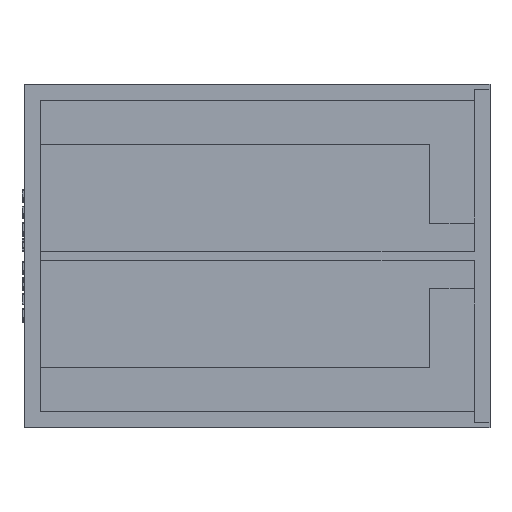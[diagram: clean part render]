
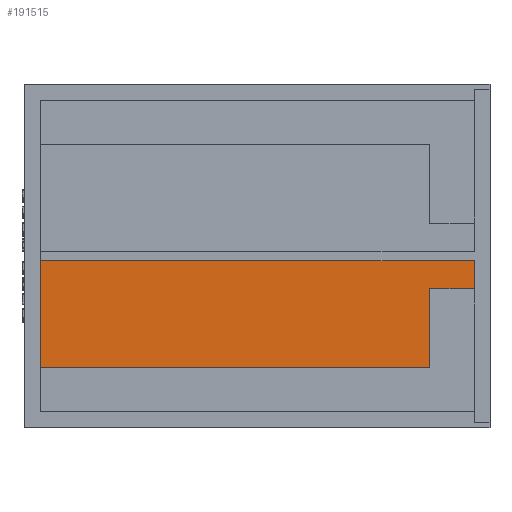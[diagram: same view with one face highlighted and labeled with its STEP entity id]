
A CAD part, top view. The second image highlights one B-rep face of the part: STEP entity #191515.
In plain terms, the highlighted planar face has unit normal (0, 0, 1).
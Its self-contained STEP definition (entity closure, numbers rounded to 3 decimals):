
#42118 = PLANE('',#42119);
#42119 = AXIS2_PLACEMENT_3D('',#42120,#42121,#42122);
#42120 = CARTESIAN_POINT('',(5.,5.,3.));
#42121 = DIRECTION('',(1.,0.,-0.));
#42122 = DIRECTION('',(0.,0.,1.));
#140355 = VERTEX_POINT('',#140356);
#140356 = CARTESIAN_POINT('',(5.,18.85,3.5));
#140370 = PLANE('',#140371);
#140371 = AXIS2_PLACEMENT_3D('',#140372,#140373,#140374);
#140372 = CARTESIAN_POINT('',(5.,18.85,3.));
#140373 = DIRECTION('',(-0.,1.,0.));
#140374 = DIRECTION('',(0.,0.,1.));
#140382 = EDGE_CURVE('',#140355,#140383,#140385,.T.);
#140383 = VERTEX_POINT('',#140384);
#140384 = CARTESIAN_POINT('',(5.,52.7,3.5));
#140385 = SURFACE_CURVE('',#140386,(#140390,#140397),.PCURVE_S1.);
#140386 = LINE('',#140387,#140388);
#140387 = CARTESIAN_POINT('',(5.,18.85,3.5));
#140388 = VECTOR('',#140389,1.);
#140389 = DIRECTION('',(-0.,1.,0.));
#140390 = PCURVE('',#42118,#140391);
#140391 = DEFINITIONAL_REPRESENTATION('',(#140392),#140396);
#140392 = LINE('',#140393,#140394);
#140393 = CARTESIAN_POINT('',(0.5,-13.85));
#140394 = VECTOR('',#140395,1.);
#140395 = DIRECTION('',(0.,-1.));
#140396 = ( GEOMETRIC_REPRESENTATION_CONTEXT(2) 
PARAMETRIC_REPRESENTATION_CONTEXT() REPRESENTATION_CONTEXT('2D SPACE',''
  ) );
#140397 = PCURVE('',#140398,#140403);
#140398 = PLANE('',#140399);
#140399 = AXIS2_PLACEMENT_3D('',#140400,#140401,#140402);
#140400 = CARTESIAN_POINT('',(5.,18.85,3.5));
#140401 = DIRECTION('',(0.,0.,1.));
#140402 = DIRECTION('',(1.,0.,-0.));
#140403 = DEFINITIONAL_REPRESENTATION('',(#140404),#140408);
#140404 = LINE('',#140405,#140406);
#140405 = CARTESIAN_POINT('',(0.,0.));
#140406 = VECTOR('',#140407,1.);
#140407 = DIRECTION('',(0.,1.));
#140408 = ( GEOMETRIC_REPRESENTATION_CONTEXT(2) 
PARAMETRIC_REPRESENTATION_CONTEXT() REPRESENTATION_CONTEXT('2D SPACE',''
  ) );
#140426 = PLANE('',#140427);
#140427 = AXIS2_PLACEMENT_3D('',#140428,#140429,#140430);
#140428 = CARTESIAN_POINT('',(5.,52.7,3.));
#140429 = DIRECTION('',(-0.,1.,0.));
#140430 = DIRECTION('',(0.,0.,1.));
#186321 = PLANE('',#186322);
#186322 = AXIS2_PLACEMENT_3D('',#186323,#186324,#186325);
#186323 = CARTESIAN_POINT('',(142.05,5.,3.));
#186324 = DIRECTION('',(1.,0.,-0.));
#186325 = DIRECTION('',(0.,0.,1.));
#191431 = PLANE('',#191432);
#191432 = AXIS2_PLACEMENT_3D('',#191433,#191434,#191435);
#191433 = CARTESIAN_POINT('',(128.05,43.85,3.));
#191434 = DIRECTION('',(-0.,1.,0.));
#191435 = DIRECTION('',(0.,0.,1.));
#191457 = PLANE('',#191458);
#191458 = AXIS2_PLACEMENT_3D('',#191459,#191460,#191461);
#191459 = CARTESIAN_POINT('',(128.05,13.85,3.));
#191460 = DIRECTION('',(1.,0.,-0.));
#191461 = DIRECTION('',(0.,0.,1.));
#191473 = VERTEX_POINT('',#191474);
#191474 = CARTESIAN_POINT('',(128.05,18.85,3.5));
#191495 = EDGE_CURVE('',#140355,#191473,#191496,.T.);
#191496 = SURFACE_CURVE('',#191497,(#191501,#191508),.PCURVE_S1.);
#191497 = LINE('',#191498,#191499);
#191498 = CARTESIAN_POINT('',(5.,18.85,3.5));
#191499 = VECTOR('',#191500,1.);
#191500 = DIRECTION('',(1.,0.,-0.));
#191501 = PCURVE('',#140370,#191502);
#191502 = DEFINITIONAL_REPRESENTATION('',(#191503),#191507);
#191503 = LINE('',#191504,#191505);
#191504 = CARTESIAN_POINT('',(0.5,0.));
#191505 = VECTOR('',#191506,1.);
#191506 = DIRECTION('',(0.,1.));
#191507 = ( GEOMETRIC_REPRESENTATION_CONTEXT(2) 
PARAMETRIC_REPRESENTATION_CONTEXT() REPRESENTATION_CONTEXT('2D SPACE',''
  ) );
#191508 = PCURVE('',#140398,#191509);
#191509 = DEFINITIONAL_REPRESENTATION('',(#191510),#191514);
#191510 = LINE('',#191511,#191512);
#191511 = CARTESIAN_POINT('',(0.,0.));
#191512 = VECTOR('',#191513,1.);
#191513 = DIRECTION('',(1.,0.));
#191514 = ( GEOMETRIC_REPRESENTATION_CONTEXT(2) 
PARAMETRIC_REPRESENTATION_CONTEXT() REPRESENTATION_CONTEXT('2D SPACE',''
  ) );
#191515 = ADVANCED_FACE('',(#191516),#140398,.T.);
#191516 = FACE_BOUND('',#191517,.T.);
#191517 = EDGE_LOOP('',(#191518,#191541,#191542,#191543,#191564,#191585)
  );
#191518 = ORIENTED_EDGE('',*,*,#191519,.F.);
#191519 = EDGE_CURVE('',#140383,#191520,#191522,.T.);
#191520 = VERTEX_POINT('',#191521);
#191521 = CARTESIAN_POINT('',(142.05,52.7,3.5));
#191522 = SURFACE_CURVE('',#191523,(#191527,#191534),.PCURVE_S1.);
#191523 = LINE('',#191524,#191525);
#191524 = CARTESIAN_POINT('',(5.,52.7,3.5));
#191525 = VECTOR('',#191526,1.);
#191526 = DIRECTION('',(1.,0.,-0.));
#191527 = PCURVE('',#140398,#191528);
#191528 = DEFINITIONAL_REPRESENTATION('',(#191529),#191533);
#191529 = LINE('',#191530,#191531);
#191530 = CARTESIAN_POINT('',(0.,33.85));
#191531 = VECTOR('',#191532,1.);
#191532 = DIRECTION('',(1.,0.));
#191533 = ( GEOMETRIC_REPRESENTATION_CONTEXT(2) 
PARAMETRIC_REPRESENTATION_CONTEXT() REPRESENTATION_CONTEXT('2D SPACE',''
  ) );
#191534 = PCURVE('',#140426,#191535);
#191535 = DEFINITIONAL_REPRESENTATION('',(#191536),#191540);
#191536 = LINE('',#191537,#191538);
#191537 = CARTESIAN_POINT('',(0.5,0.));
#191538 = VECTOR('',#191539,1.);
#191539 = DIRECTION('',(0.,1.));
#191540 = ( GEOMETRIC_REPRESENTATION_CONTEXT(2) 
PARAMETRIC_REPRESENTATION_CONTEXT() REPRESENTATION_CONTEXT('2D SPACE',''
  ) );
#191541 = ORIENTED_EDGE('',*,*,#140382,.F.);
#191542 = ORIENTED_EDGE('',*,*,#191495,.T.);
#191543 = ORIENTED_EDGE('',*,*,#191544,.T.);
#191544 = EDGE_CURVE('',#191473,#191545,#191547,.T.);
#191545 = VERTEX_POINT('',#191546);
#191546 = CARTESIAN_POINT('',(128.05,43.85,3.5));
#191547 = SURFACE_CURVE('',#191548,(#191552,#191558),.PCURVE_S1.);
#191548 = LINE('',#191549,#191550);
#191549 = CARTESIAN_POINT('',(128.05,16.35,3.5));
#191550 = VECTOR('',#191551,1.);
#191551 = DIRECTION('',(-0.,1.,0.));
#191552 = PCURVE('',#140398,#191553);
#191553 = DEFINITIONAL_REPRESENTATION('',(#191554),#191557);
#191554 = B_SPLINE_CURVE_WITH_KNOTS('',1,(#191555,#191556),
  .UNSPECIFIED.,.F.,.F.,(2,2),(2.5,27.5),.PIECEWISE_BEZIER_KNOTS.);
#191555 = CARTESIAN_POINT('',(123.05,0.));
#191556 = CARTESIAN_POINT('',(123.05,25.));
#191557 = ( GEOMETRIC_REPRESENTATION_CONTEXT(2) 
PARAMETRIC_REPRESENTATION_CONTEXT() REPRESENTATION_CONTEXT('2D SPACE',''
  ) );
#191558 = PCURVE('',#191457,#191559);
#191559 = DEFINITIONAL_REPRESENTATION('',(#191560),#191563);
#191560 = B_SPLINE_CURVE_WITH_KNOTS('',1,(#191561,#191562),
  .UNSPECIFIED.,.F.,.F.,(2,2),(2.5,27.5),.PIECEWISE_BEZIER_KNOTS.);
#191561 = CARTESIAN_POINT('',(0.5,-5.));
#191562 = CARTESIAN_POINT('',(0.5,-30.));
#191563 = ( GEOMETRIC_REPRESENTATION_CONTEXT(2) 
PARAMETRIC_REPRESENTATION_CONTEXT() REPRESENTATION_CONTEXT('2D SPACE',''
  ) );
#191564 = ORIENTED_EDGE('',*,*,#191565,.F.);
#191565 = EDGE_CURVE('',#191566,#191545,#191568,.T.);
#191566 = VERTEX_POINT('',#191567);
#191567 = CARTESIAN_POINT('',(142.05,43.85,3.5));
#191568 = SURFACE_CURVE('',#191569,(#191573,#191579),.PCURVE_S1.);
#191569 = LINE('',#191570,#191571);
#191570 = CARTESIAN_POINT('',(66.525,43.85,3.5));
#191571 = VECTOR('',#191572,1.);
#191572 = DIRECTION('',(-1.,-0.,0.));
#191573 = PCURVE('',#140398,#191574);
#191574 = DEFINITIONAL_REPRESENTATION('',(#191575),#191578);
#191575 = B_SPLINE_CURVE_WITH_KNOTS('',1,(#191576,#191577),
  .UNSPECIFIED.,.F.,.F.,(2,2),(-75.525,-61.525),
  .PIECEWISE_BEZIER_KNOTS.);
#191576 = CARTESIAN_POINT('',(137.05,25.));
#191577 = CARTESIAN_POINT('',(123.05,25.));
#191578 = ( GEOMETRIC_REPRESENTATION_CONTEXT(2) 
PARAMETRIC_REPRESENTATION_CONTEXT() REPRESENTATION_CONTEXT('2D SPACE',''
  ) );
#191579 = PCURVE('',#191431,#191580);
#191580 = DEFINITIONAL_REPRESENTATION('',(#191581),#191584);
#191581 = B_SPLINE_CURVE_WITH_KNOTS('',1,(#191582,#191583),
  .UNSPECIFIED.,.F.,.F.,(2,2),(-75.525,-61.525),
  .PIECEWISE_BEZIER_KNOTS.);
#191582 = CARTESIAN_POINT('',(0.5,14.));
#191583 = CARTESIAN_POINT('',(0.5,0.));
#191584 = ( GEOMETRIC_REPRESENTATION_CONTEXT(2) 
PARAMETRIC_REPRESENTATION_CONTEXT() REPRESENTATION_CONTEXT('2D SPACE',''
  ) );
#191585 = ORIENTED_EDGE('',*,*,#191586,.T.);
#191586 = EDGE_CURVE('',#191566,#191520,#191587,.T.);
#191587 = SURFACE_CURVE('',#191588,(#191592,#191599),.PCURVE_S1.);
#191588 = LINE('',#191589,#191590);
#191589 = CARTESIAN_POINT('',(142.05,18.85,3.5));
#191590 = VECTOR('',#191591,1.);
#191591 = DIRECTION('',(-0.,1.,0.));
#191592 = PCURVE('',#140398,#191593);
#191593 = DEFINITIONAL_REPRESENTATION('',(#191594),#191598);
#191594 = LINE('',#191595,#191596);
#191595 = CARTESIAN_POINT('',(137.05,0.));
#191596 = VECTOR('',#191597,1.);
#191597 = DIRECTION('',(0.,1.));
#191598 = ( GEOMETRIC_REPRESENTATION_CONTEXT(2) 
PARAMETRIC_REPRESENTATION_CONTEXT() REPRESENTATION_CONTEXT('2D SPACE',''
  ) );
#191599 = PCURVE('',#186321,#191600);
#191600 = DEFINITIONAL_REPRESENTATION('',(#191601),#191605);
#191601 = LINE('',#191602,#191603);
#191602 = CARTESIAN_POINT('',(0.5,-13.85));
#191603 = VECTOR('',#191604,1.);
#191604 = DIRECTION('',(0.,-1.));
#191605 = ( GEOMETRIC_REPRESENTATION_CONTEXT(2) 
PARAMETRIC_REPRESENTATION_CONTEXT() REPRESENTATION_CONTEXT('2D SPACE',''
  ) );
